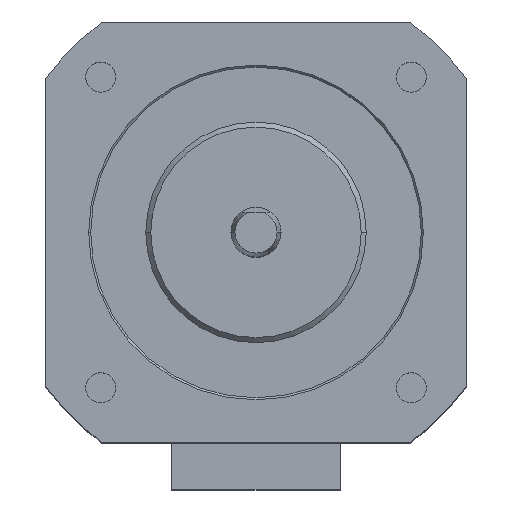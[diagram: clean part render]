
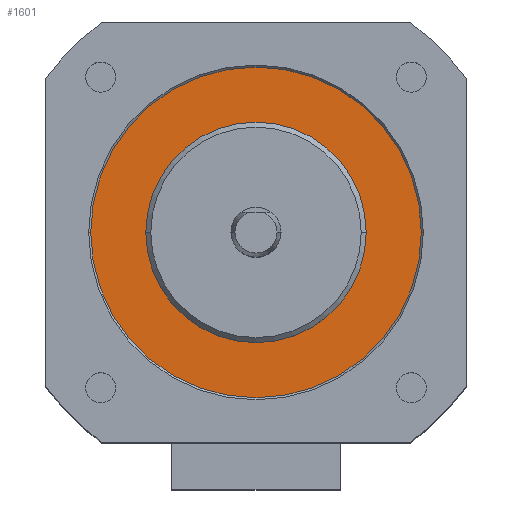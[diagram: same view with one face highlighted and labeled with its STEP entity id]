
A CAD part, top view. The second image highlights one B-rep face of the part: STEP entity #1601.
In plain terms, the highlighted planar face has unit normal (0, 0, 1).
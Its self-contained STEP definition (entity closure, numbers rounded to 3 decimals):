
#15 = EDGE_CURVE ( 'NONE', #1911, #1944, #258, .T. ) ;
#163 = EDGE_CURVE ( 'NONE', #682, #600, #521, .T. ) ;
#194 = AXIS2_PLACEMENT_3D ( 'NONE', #798, #1951, #625 ) ;
#207 = ORIENTED_EDGE ( 'NONE', *, *, #15, .T. ) ;
#232 = DIRECTION ( 'NONE',  ( 1., 0., 0. ) ) ;
#245 = DIRECTION ( 'NONE',  ( 0., 0., 1. ) ) ;
#258 = CIRCLE ( 'NONE', #194, 16.5 ) ;
#383 = CARTESIAN_POINT ( 'NONE',  ( 0., 0., -2.2 ) ) ;
#399 = DIRECTION ( 'NONE',  ( 1., 0., 0. ) ) ;
#443 = CARTESIAN_POINT ( 'NONE',  ( -11., 0., -2.2 ) ) ;
#445 = CARTESIAN_POINT ( 'NONE',  ( 16.5, 0., -2.2 ) ) ;
#521 = CIRCLE ( 'NONE', #2028, 11. ) ;
#548 = DIRECTION ( 'NONE',  ( 1., 0., 0. ) ) ;
#559 = EDGE_LOOP ( 'NONE', ( #207, #1134 ) ) ;
#561 = DIRECTION ( 'NONE',  ( 1., 0., 0. ) ) ;
#585 = FACE_OUTER_BOUND ( 'NONE', #559, .T. ) ;
#588 = DIRECTION ( 'NONE',  ( 0., 0., 1. ) ) ;
#600 = VERTEX_POINT ( 'NONE', #1427 ) ;
#625 = DIRECTION ( 'NONE',  ( 1., 0., 0. ) ) ;
#682 = VERTEX_POINT ( 'NONE', #443 ) ;
#709 = ORIENTED_EDGE ( 'NONE', *, *, #163, .F. ) ;
#798 = CARTESIAN_POINT ( 'NONE',  ( 0., 0., -2.2 ) ) ;
#886 = CARTESIAN_POINT ( 'NONE',  ( 0., 0., -2.2 ) ) ;
#900 = DIRECTION ( 'NONE',  ( 0., 0., 1. ) ) ;
#932 = CARTESIAN_POINT ( 'NONE',  ( -16.5, 0., -2.2 ) ) ;
#1082 = CARTESIAN_POINT ( 'NONE',  ( 0., 0., -2.2 ) ) ;
#1134 = ORIENTED_EDGE ( 'NONE', *, *, #1553, .T. ) ;
#1152 = CIRCLE ( 'NONE', #1622, 11. ) ;
#1256 = FACE_BOUND ( 'NONE', #1358, .T. ) ;
#1266 = EDGE_CURVE ( 'NONE', #600, #682, #1152, .T. ) ;
#1358 = EDGE_LOOP ( 'NONE', ( #1376, #709 ) ) ;
#1376 = ORIENTED_EDGE ( 'NONE', *, *, #1266, .F. ) ;
#1427 = CARTESIAN_POINT ( 'NONE',  ( 11., 0., -2.2 ) ) ;
#1447 = AXIS2_PLACEMENT_3D ( 'NONE', #1547, #900, #561 ) ;
#1547 = CARTESIAN_POINT ( 'NONE',  ( 0., 0., -2.2 ) ) ;
#1553 = EDGE_CURVE ( 'NONE', #1944, #1911, #1665, .T. ) ;
#1601 = ADVANCED_FACE ( 'NONE', ( #1256, #585 ), #1882, .T. ) ;
#1622 = AXIS2_PLACEMENT_3D ( 'NONE', #886, #1722, #232 ) ;
#1665 = CIRCLE ( 'NONE', #1447, 16.5 ) ;
#1722 = DIRECTION ( 'NONE',  ( 0., 0., 1. ) ) ;
#1753 = AXIS2_PLACEMENT_3D ( 'NONE', #383, #245, #548 ) ;
#1882 = PLANE ( 'NONE',  #1753 ) ;
#1911 = VERTEX_POINT ( 'NONE', #445 ) ;
#1944 = VERTEX_POINT ( 'NONE', #932 ) ;
#1951 = DIRECTION ( 'NONE',  ( 0., 0., 1. ) ) ;
#2028 = AXIS2_PLACEMENT_3D ( 'NONE', #1082, #588, #399 ) ;
